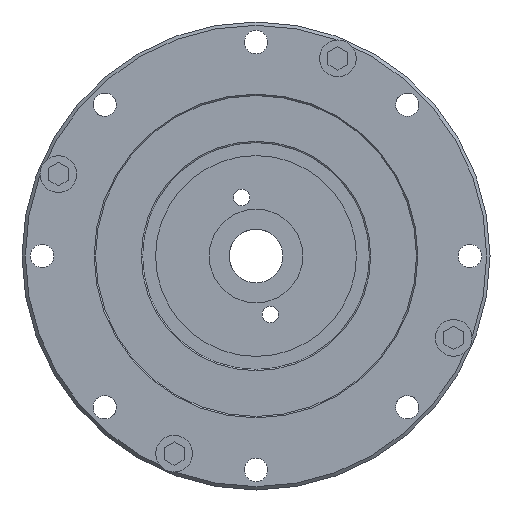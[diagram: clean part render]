
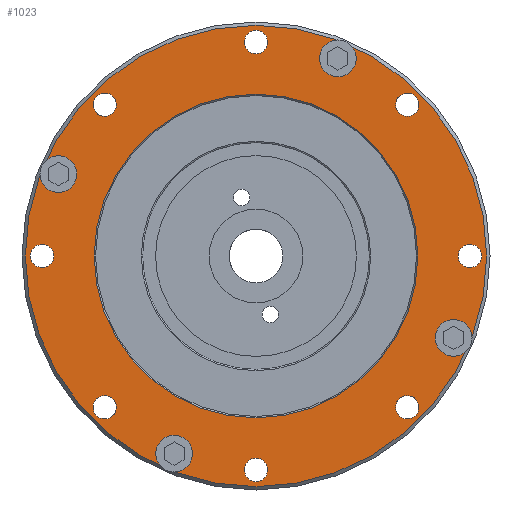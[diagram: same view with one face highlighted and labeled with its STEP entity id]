
A CAD part, left-side view. The second image highlights one B-rep face of the part: STEP entity #1023.
In plain terms, the highlighted planar face has unit normal (-1, 0, 0).
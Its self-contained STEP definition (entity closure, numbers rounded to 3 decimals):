
#581=PLANE('',#3530);
#799=FACE_BOUND('',#1474,.T.);
#800=FACE_BOUND('',#1475,.T.);
#801=FACE_BOUND('',#1476,.T.);
#802=FACE_BOUND('',#1477,.T.);
#803=FACE_BOUND('',#1478,.T.);
#804=FACE_BOUND('',#1479,.T.);
#805=FACE_BOUND('',#1480,.T.);
#806=FACE_BOUND('',#1481,.T.);
#807=FACE_BOUND('',#1482,.T.);
#808=FACE_BOUND('',#1483,.T.);
#809=FACE_BOUND('',#1484,.T.);
#810=FACE_BOUND('',#1485,.T.);
#811=FACE_BOUND('',#1486,.T.);
#1023=ADVANCED_FACE('',(#799,#800,#801,#802,#803,#804,#805,#806,#807,#808,
#809,#810,#811,#1286),#581,.T.);
#1286=FACE_OUTER_BOUND('',#1487,.T.);
#1474=EDGE_LOOP('',(#1899));
#1475=EDGE_LOOP('',(#1900));
#1476=EDGE_LOOP('',(#1901));
#1477=EDGE_LOOP('',(#1902));
#1478=EDGE_LOOP('',(#1903));
#1479=EDGE_LOOP('',(#1904));
#1480=EDGE_LOOP('',(#1905));
#1481=EDGE_LOOP('',(#1906));
#1482=EDGE_LOOP('',(#1907));
#1483=EDGE_LOOP('',(#1908));
#1484=EDGE_LOOP('',(#1909));
#1485=EDGE_LOOP('',(#1910));
#1486=EDGE_LOOP('',(#1911));
#1487=EDGE_LOOP('',(#1912));
#1899=ORIENTED_EDGE('',*,*,#2973,.T.);
#1900=ORIENTED_EDGE('',*,*,#2974,.T.);
#1901=ORIENTED_EDGE('',*,*,#2975,.T.);
#1902=ORIENTED_EDGE('',*,*,#2976,.T.);
#1903=ORIENTED_EDGE('',*,*,#2977,.T.);
#1904=ORIENTED_EDGE('',*,*,#2978,.T.);
#1905=ORIENTED_EDGE('',*,*,#2979,.T.);
#1906=ORIENTED_EDGE('',*,*,#2980,.T.);
#1907=ORIENTED_EDGE('',*,*,#2981,.T.);
#1908=ORIENTED_EDGE('',*,*,#2982,.T.);
#1909=ORIENTED_EDGE('',*,*,#2983,.T.);
#1910=ORIENTED_EDGE('',*,*,#2984,.T.);
#1911=ORIENTED_EDGE('',*,*,#2985,.T.);
#1912=ORIENTED_EDGE('',*,*,#2986,.T.);
#2649=VERTEX_POINT('',#4997);
#2650=VERTEX_POINT('',#4999);
#2651=VERTEX_POINT('',#5001);
#2652=VERTEX_POINT('',#5003);
#2653=VERTEX_POINT('',#5005);
#2654=VERTEX_POINT('',#5007);
#2655=VERTEX_POINT('',#5009);
#2656=VERTEX_POINT('',#5011);
#2657=VERTEX_POINT('',#5013);
#2658=VERTEX_POINT('',#5015);
#2659=VERTEX_POINT('',#5017);
#2660=VERTEX_POINT('',#5019);
#2661=VERTEX_POINT('',#5021);
#2662=VERTEX_POINT('',#5023);
#2973=EDGE_CURVE('',#2649,#2649,#3339,.T.);
#2974=EDGE_CURVE('',#2650,#2650,#3340,.T.);
#2975=EDGE_CURVE('',#2651,#2651,#3341,.T.);
#2976=EDGE_CURVE('',#2652,#2652,#3342,.T.);
#2977=EDGE_CURVE('',#2653,#2653,#3343,.T.);
#2978=EDGE_CURVE('',#2654,#2654,#3344,.T.);
#2979=EDGE_CURVE('',#2655,#2655,#3345,.T.);
#2980=EDGE_CURVE('',#2656,#2656,#3346,.T.);
#2981=EDGE_CURVE('',#2657,#2657,#3347,.T.);
#2982=EDGE_CURVE('',#2658,#2658,#3348,.T.);
#2983=EDGE_CURVE('',#2659,#2659,#3349,.T.);
#2984=EDGE_CURVE('',#2660,#2660,#3350,.T.);
#2985=EDGE_CURVE('',#2661,#2661,#3351,.T.);
#2986=EDGE_CURVE('',#2662,#2662,#3352,.T.);
#3339=CIRCLE('',#3516,1.75);
#3340=CIRCLE('',#3517,1.75);
#3341=CIRCLE('',#3518,1.75);
#3342=CIRCLE('',#3519,1.75);
#3343=CIRCLE('',#3520,1.75);
#3344=CIRCLE('',#3521,1.75);
#3345=CIRCLE('',#3522,1.75);
#3346=CIRCLE('',#3523,1.5);
#3347=CIRCLE('',#3524,1.5);
#3348=CIRCLE('',#3525,1.5);
#3349=CIRCLE('',#3526,1.5);
#3350=CIRCLE('',#3527,1.75);
#3351=CIRCLE('',#3528,24.2);
#3352=CIRCLE('',#3529,34.5);
#3516=AXIS2_PLACEMENT_3D('',#4996,#3989,#3990);
#3517=AXIS2_PLACEMENT_3D('',#4998,#3991,#3992);
#3518=AXIS2_PLACEMENT_3D('',#5000,#3993,#3994);
#3519=AXIS2_PLACEMENT_3D('',#5002,#3995,#3996);
#3520=AXIS2_PLACEMENT_3D('',#5004,#3997,#3998);
#3521=AXIS2_PLACEMENT_3D('',#5006,#3999,#4000);
#3522=AXIS2_PLACEMENT_3D('',#5008,#4001,#4002);
#3523=AXIS2_PLACEMENT_3D('',#5010,#4003,#4004);
#3524=AXIS2_PLACEMENT_3D('',#5012,#4005,#4006);
#3525=AXIS2_PLACEMENT_3D('',#5014,#4007,#4008);
#3526=AXIS2_PLACEMENT_3D('',#5016,#4009,#4010);
#3527=AXIS2_PLACEMENT_3D('',#5018,#4011,#4012);
#3528=AXIS2_PLACEMENT_3D('',#5020,#4013,#4014);
#3529=AXIS2_PLACEMENT_3D('',#5022,#4015,#4016);
#3530=AXIS2_PLACEMENT_3D('',#5024,#4017,#4018);
#3989=DIRECTION('',(1.,0.,0.));
#3990=DIRECTION('',(0.,-0.707,-0.707));
#3991=DIRECTION('',(1.,0.,0.));
#3992=DIRECTION('',(0.,-1.,0.));
#3993=DIRECTION('',(1.,0.,0.));
#3994=DIRECTION('',(0.,-0.707,0.707));
#3995=DIRECTION('',(1.,0.,0.));
#3996=DIRECTION('',(0.,0.,1.));
#3997=DIRECTION('',(1.,0.,0.));
#3998=DIRECTION('',(0.,0.707,0.707));
#3999=DIRECTION('',(1.,0.,0.));
#4000=DIRECTION('',(0.,1.,0.));
#4001=DIRECTION('',(1.,0.,0.));
#4002=DIRECTION('',(0.,0.707,-0.707));
#4003=DIRECTION('',(1.,0.,0.));
#4004=DIRECTION('',(0.,-1.,0.));
#4005=DIRECTION('',(1.,0.,0.));
#4006=DIRECTION('',(0.,0.,1.));
#4007=DIRECTION('',(1.,0.,0.));
#4008=DIRECTION('',(0.,1.,0.));
#4009=DIRECTION('',(1.,0.,0.));
#4010=DIRECTION('',(0.,0.,-1.));
#4011=DIRECTION('',(1.,0.,0.));
#4012=DIRECTION('',(0.,0.,-1.));
#4013=DIRECTION('',(1.,0.,0.));
#4014=DIRECTION('',(0.,0.,1.));
#4015=DIRECTION('',(-1.,0.,0.));
#4016=DIRECTION('',(0.,0.,1.));
#4017=DIRECTION('',(-1.,0.,0.));
#4018=DIRECTION('',(0.,0.,1.));
#4996=CARTESIAN_POINT('',(0.,22.627,-22.627));
#4997=CARTESIAN_POINT('',(0.,21.39,-23.865));
#4998=CARTESIAN_POINT('',(0.,0.,-32.));
#4999=CARTESIAN_POINT('',(0.,-1.75,-32.));
#5000=CARTESIAN_POINT('',(0.,-22.627,-22.627));
#5001=CARTESIAN_POINT('',(0.,-23.865,-21.39));
#5002=CARTESIAN_POINT('',(0.,-32.,0.));
#5003=CARTESIAN_POINT('',(0.,-32.,1.75));
#5004=CARTESIAN_POINT('',(0.,-22.627,22.627));
#5005=CARTESIAN_POINT('',(0.,-21.39,23.865));
#5006=CARTESIAN_POINT('',(0.,0.,32.));
#5007=CARTESIAN_POINT('',(0.,1.75,32.));
#5008=CARTESIAN_POINT('',(0.,22.627,22.627));
#5009=CARTESIAN_POINT('',(0.,23.865,21.39));
#5010=CARTESIAN_POINT('',(0.,12.246,-29.564));
#5011=CARTESIAN_POINT('',(0.,10.746,-29.564));
#5012=CARTESIAN_POINT('',(0.,-29.564,-12.246));
#5013=CARTESIAN_POINT('',(0.,-29.564,-10.746));
#5014=CARTESIAN_POINT('',(0.,-12.246,29.564));
#5015=CARTESIAN_POINT('',(0.,-10.746,29.564));
#5016=CARTESIAN_POINT('',(0.,29.564,12.246));
#5017=CARTESIAN_POINT('',(0.,29.564,10.746));
#5018=CARTESIAN_POINT('',(0.,32.,0.));
#5019=CARTESIAN_POINT('',(0.,32.,-1.75));
#5020=CARTESIAN_POINT('',(0.,0.,0.));
#5021=CARTESIAN_POINT('',(0.,0.,24.2));
#5022=CARTESIAN_POINT('',(0.,0.,0.));
#5023=CARTESIAN_POINT('',(0.,0.,34.5));
#5024=CARTESIAN_POINT('',(0.,24.,0.));
